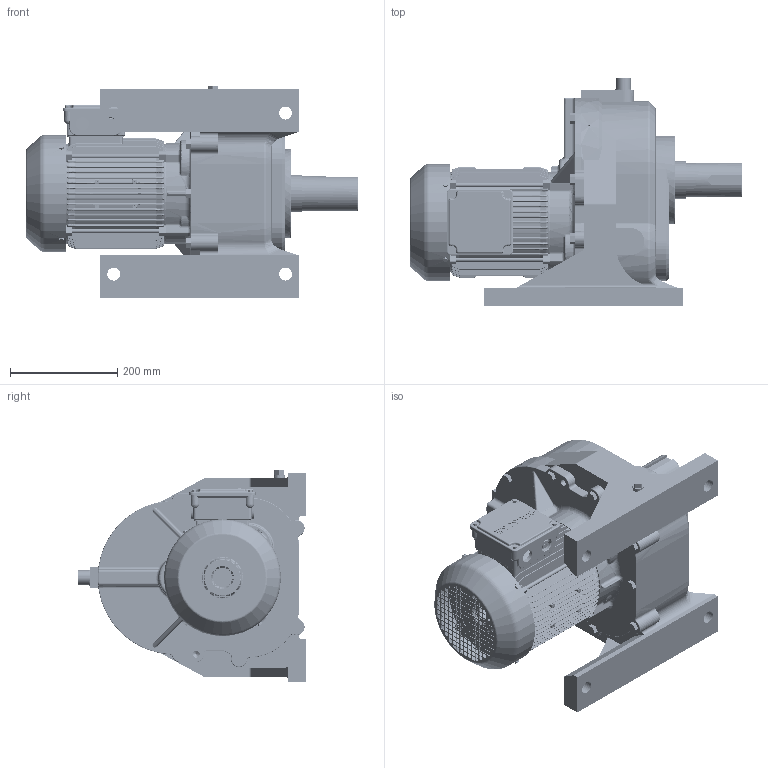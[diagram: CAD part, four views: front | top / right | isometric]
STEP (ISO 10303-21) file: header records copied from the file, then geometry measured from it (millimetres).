
FILE_DESCRIPTION (( 'STEP AP214' ), '1' );
FILE_NAME ('EK2DO100760H0001_F1HA23_2.2KW_R75~90_CUSTOMER.stp', '2024-03-15T08:03:07', ( '' ), ( '' ), 'SwSTEP 2.0', 'SolidWorks 2022', '' );
FILE_SCHEMA (( 'AUTOMOTIVE_DESIGN' ));
Length unit declared in the file: millimetre
Products named in the file (1): EK2DO100760H0001_F1HA23_2.2KW_R75~90_CUSTOMER
Bounding box: 618.5 x 425.5 x 396 mm (x, y, z)
Volume: 21701720.5 mm3; surface area: 1792296.2 mm2
Topology: 33 solids, 33 shells, 8672 faces, 21856 edges, 13245 vertices
Faces by surface type: cylinder 2943, bspline 2487, plane 2008, torus 669, cone 372, sphere 193
Entity records: 337870 total; most frequent: CARTESIAN_POINT 143723, ORIENTED_EDGE 43396, DIRECTION 36632, EDGE_CURVE 21698, AXIS2_PLACEMENT_3D 13983, VERTEX_POINT 13241, EDGE_LOOP 9285, FACE_OUTER_BOUND 8672
